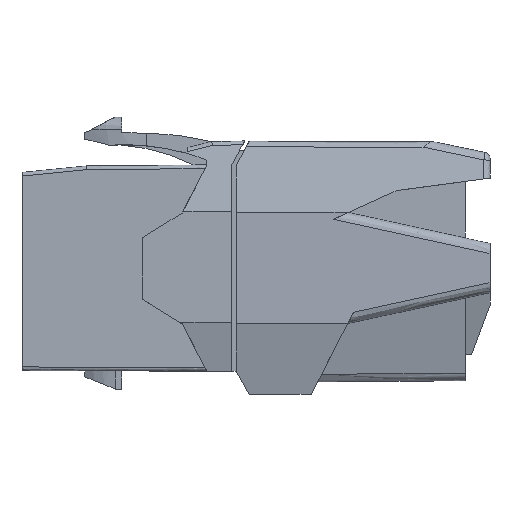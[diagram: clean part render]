
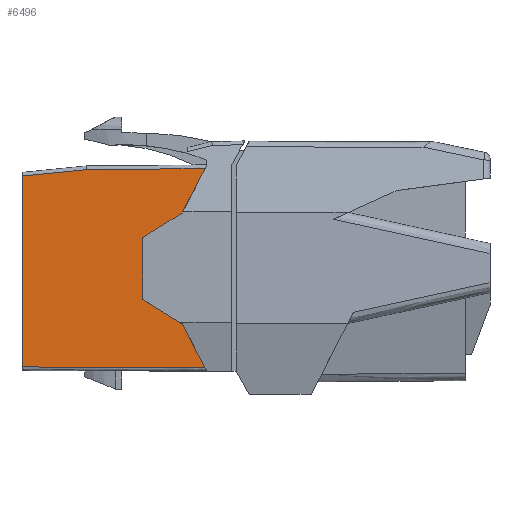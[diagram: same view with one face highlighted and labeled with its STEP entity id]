
A CAD part, front view. The second image highlights one B-rep face of the part: STEP entity #6496.
In plain terms, the highlighted free-form (B-spline) face has degree [1, 1] with [2, 2] control points.
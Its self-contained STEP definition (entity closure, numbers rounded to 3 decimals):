
#3310=CARTESIAN_POINT('',(0.,-7.25,15.799));
#3311=VERTEX_POINT('',#3310);
#3312=CARTESIAN_POINT('',(0.,-7.25,0.3));
#3313=VERTEX_POINT('',#3312);
#3314=CARTESIAN_POINT('',(0.,-7.25,15.799));
#3315=CARTESIAN_POINT('',(0.,-7.25,12.699));
#3316=CARTESIAN_POINT('',(0.,-7.25,9.599));
#3317=CARTESIAN_POINT('',(0.,-7.25,6.499));
#3318=CARTESIAN_POINT('',(0.,-7.25,3.4));
#3319=CARTESIAN_POINT('',(0.,-7.25,0.3));
#3320=B_SPLINE_CURVE_WITH_KNOTS('',5,(#3314,#3315,#3316,#3317,#3318,#3319),.UNSPECIFIED.,.F.,.U.,(6,6),(0.,15.499),.UNSPECIFIED.);
#3321=EDGE_CURVE('',#3311,#3313,#3320,.T.);
#5919=CARTESIAN_POINT('',(9.8,-7.301,5.8));
#5920=VERTEX_POINT('',#5919);
#5921=CARTESIAN_POINT('',(12.996,-7.318,3.802));
#5922=VERTEX_POINT('',#5921);
#5923=CARTESIAN_POINT('',(9.8,-7.301,5.8));
#5924=CARTESIAN_POINT('',(10.439,-7.305,5.4));
#5925=CARTESIAN_POINT('',(11.078,-7.308,5.001));
#5926=CARTESIAN_POINT('',(11.718,-7.311,4.601));
#5927=CARTESIAN_POINT('',(12.357,-7.315,4.202));
#5928=CARTESIAN_POINT('',(12.996,-7.318,3.802));
#5929=B_SPLINE_CURVE_WITH_KNOTS('',5,(#5923,#5924,#5925,#5926,#5927,#5928),.UNSPECIFIED.,.F.,.U.,(6,6),(0.,3.769),.UNSPECIFIED.);
#5930=EDGE_CURVE('',#5920,#5922,#5929,.T.);
#6001=CARTESIAN_POINT('',(14.864,-7.328,0.259));
#6002=VERTEX_POINT('',#6001);
#6003=CARTESIAN_POINT('',(12.996,-7.318,3.802));
#6004=CARTESIAN_POINT('',(13.37,-7.32,3.094));
#6005=CARTESIAN_POINT('',(13.743,-7.322,2.385));
#6006=CARTESIAN_POINT('',(14.117,-7.324,1.676));
#6007=CARTESIAN_POINT('',(14.49,-7.326,0.967));
#6008=CARTESIAN_POINT('',(14.864,-7.328,0.259));
#6009=B_SPLINE_CURVE_WITH_KNOTS('',5,(#6003,#6004,#6005,#6006,#6007,#6008),.UNSPECIFIED.,.F.,.U.,(6,6),(0.,4.006),.UNSPECIFIED.);
#6010=EDGE_CURVE('',#5922,#6002,#6009,.T.);
#6081=CARTESIAN_POINT('',(9.8,-7.301,10.8));
#6082=VERTEX_POINT('',#6081);
#6083=CARTESIAN_POINT('',(9.8,-7.301,10.8));
#6084=CARTESIAN_POINT('',(9.8,-7.301,9.8));
#6085=CARTESIAN_POINT('',(9.8,-7.301,8.8));
#6086=CARTESIAN_POINT('',(9.8,-7.301,7.8));
#6087=CARTESIAN_POINT('',(9.8,-7.301,6.8));
#6088=CARTESIAN_POINT('',(9.8,-7.301,5.8));
#6089=B_SPLINE_CURVE_WITH_KNOTS('',5,(#6083,#6084,#6085,#6086,#6087,#6088),.UNSPECIFIED.,.F.,.U.,(6,6),(0.,5.),.UNSPECIFIED.);
#6090=EDGE_CURVE('',#6082,#5920,#6089,.T.);
#6141=CARTESIAN_POINT('',(13.,-7.318,12.8));
#6142=VERTEX_POINT('',#6141);
#6143=CARTESIAN_POINT('',(13.,-7.318,12.8));
#6144=CARTESIAN_POINT('',(12.36,-7.315,12.4));
#6145=CARTESIAN_POINT('',(11.72,-7.311,12.));
#6146=CARTESIAN_POINT('',(11.08,-7.308,11.6));
#6147=CARTESIAN_POINT('',(10.44,-7.305,11.2));
#6148=CARTESIAN_POINT('',(9.8,-7.301,10.8));
#6149=B_SPLINE_CURVE_WITH_KNOTS('',5,(#6143,#6144,#6145,#6146,#6147,#6148),.UNSPECIFIED.,.F.,.U.,(6,6),(0.,3.774),.UNSPECIFIED.);
#6150=EDGE_CURVE('',#6142,#6082,#6149,.T.);
#6201=CARTESIAN_POINT('',(14.873,-7.328,16.405));
#6202=VERTEX_POINT('',#6201);
#6203=CARTESIAN_POINT('',(14.873,-7.328,16.405));
#6204=CARTESIAN_POINT('',(14.498,-7.326,15.684));
#6205=CARTESIAN_POINT('',(14.124,-7.324,14.963));
#6206=CARTESIAN_POINT('',(13.749,-7.322,14.242));
#6207=CARTESIAN_POINT('',(13.375,-7.32,13.521));
#6208=CARTESIAN_POINT('',(13.,-7.318,12.8));
#6209=B_SPLINE_CURVE_WITH_KNOTS('',5,(#6203,#6204,#6205,#6206,#6207,#6208),.UNSPECIFIED.,.F.,.U.,(6,6),(0.,4.062),.UNSPECIFIED.);
#6210=EDGE_CURVE('',#6202,#6142,#6209,.T.);
#6454=CARTESIAN_POINT('',(0.,-7.25,16.405));
#6455=CARTESIAN_POINT('',(14.873,-7.328,16.405));
#6456=CARTESIAN_POINT('',(0.,-7.25,0.259));
#6457=CARTESIAN_POINT('',(14.873,-7.328,0.259));
#6458=B_SPLINE_SURFACE_WITH_KNOTS('',1,1,((#6454,#6455),(#6456,#6457)),.PLANE_SURF.,.F.,.F.,.U.,(2,2),(2,2),(0.,1.086),(0.,1.),.UNSPECIFIED.);
#6459=CARTESIAN_POINT('',(5.219,-7.277,16.321));
#6460=VERTEX_POINT('',#6459);
#6461=CARTESIAN_POINT('',(0.,-7.25,15.799));
#6462=CARTESIAN_POINT('',(1.044,-7.255,15.903));
#6463=CARTESIAN_POINT('',(2.088,-7.261,16.007));
#6464=CARTESIAN_POINT('',(3.131,-7.266,16.112));
#6465=CARTESIAN_POINT('',(4.175,-7.272,16.216));
#6466=CARTESIAN_POINT('',(5.219,-7.277,16.321));
#6467=B_SPLINE_CURVE_WITH_KNOTS('',5,(#6461,#6462,#6463,#6464,#6465,#6466),.UNSPECIFIED.,.F.,.U.,(6,6),(0.,5.245),.UNSPECIFIED.);
#6468=EDGE_CURVE('',#3311,#6460,#6467,.T.);
#6469=ORIENTED_EDGE('',*,*,#6468,.F.);
#6470=ORIENTED_EDGE('',*,*,#3321,.T.);
#6471=CARTESIAN_POINT('',(14.864,-7.328,0.259));
#6472=CARTESIAN_POINT('',(11.891,-7.312,0.267));
#6473=CARTESIAN_POINT('',(8.918,-7.297,0.275));
#6474=CARTESIAN_POINT('',(5.945,-7.281,0.283));
#6475=CARTESIAN_POINT('',(2.973,-7.266,0.292));
#6476=CARTESIAN_POINT('',(0.,-7.25,0.3));
#6477=B_SPLINE_CURVE_WITH_KNOTS('',5,(#6471,#6472,#6473,#6474,#6475,#6476),.UNSPECIFIED.,.F.,.U.,(6,6),(0.,14.864),.UNSPECIFIED.);
#6478=EDGE_CURVE('',#6002,#3313,#6477,.T.);
#6479=ORIENTED_EDGE('',*,*,#6478,.F.);
#6480=ORIENTED_EDGE('',*,*,#6010,.F.);
#6481=ORIENTED_EDGE('',*,*,#5930,.F.);
#6482=ORIENTED_EDGE('',*,*,#6090,.F.);
#6483=ORIENTED_EDGE('',*,*,#6150,.F.);
#6484=ORIENTED_EDGE('',*,*,#6210,.F.);
#6485=CARTESIAN_POINT('',(5.219,-7.277,16.321));
#6486=CARTESIAN_POINT('',(7.15,-7.287,16.337));
#6487=CARTESIAN_POINT('',(9.08,-7.298,16.354));
#6488=CARTESIAN_POINT('',(11.011,-7.308,16.371));
#6489=CARTESIAN_POINT('',(12.942,-7.318,16.388));
#6490=CARTESIAN_POINT('',(14.873,-7.328,16.405));
#6491=B_SPLINE_CURVE_WITH_KNOTS('',5,(#6485,#6486,#6487,#6488,#6489,#6490),.UNSPECIFIED.,.F.,.U.,(6,6),(0.,9.654),.UNSPECIFIED.);
#6492=EDGE_CURVE('',#6460,#6202,#6491,.T.);
#6493=ORIENTED_EDGE('',*,*,#6492,.F.);
#6494=EDGE_LOOP('',(#6469,#6470,#6479,#6480,#6481,#6482,#6483,#6484,#6493));
#6495=FACE_OUTER_BOUND('',#6494,.T.);
#6496=ADVANCED_FACE('',(#6495),#6458,.T.);
